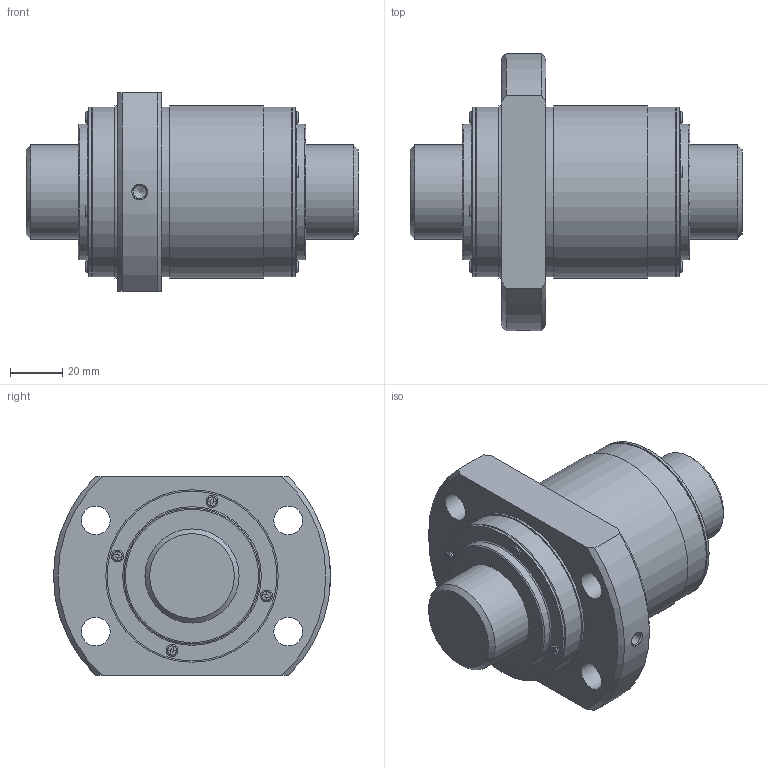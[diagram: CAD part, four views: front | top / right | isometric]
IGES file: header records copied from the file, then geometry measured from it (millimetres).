
Start section: Data from Parasolid IGES Translator 26.0.171, Copyright(c) 2006 Siemens PLM Software. All Rights Reserved.
Global section: file name: BLK3636-7.2ZZ+127LC7T_000.igs; native system: By Siemens PLM Incorporated; preprocessor: XPlus GENERIC/IGES 26.0.171; author: Noname; organization: Noname; date: 20250611.063038; units: millimetre
Bounding box: 127 x 106 x 76 mm (x, y, z)
Surface area: 59892.7 mm2 (no closed solid volume)
Topology: 0 solids, 0 shells, 215 faces, 1083 edges, 1007 vertices
Faces by surface type: extrusion 127, revolution 88
